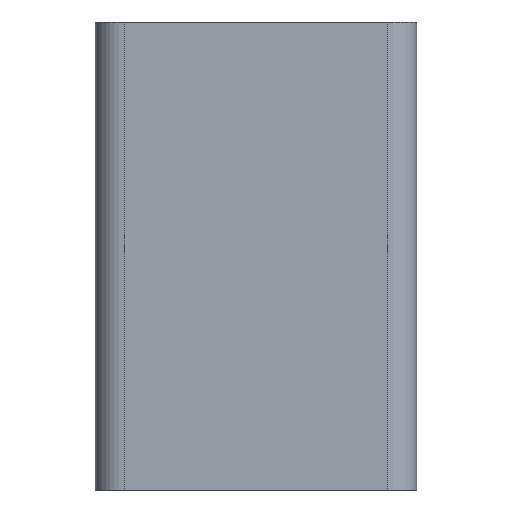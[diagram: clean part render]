
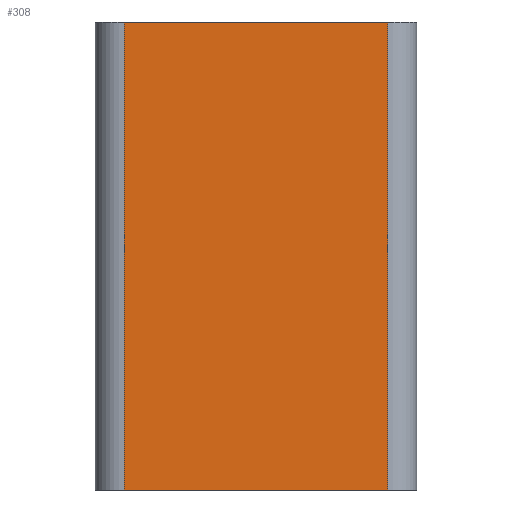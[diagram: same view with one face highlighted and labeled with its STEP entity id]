
A CAD part, left-side view. The second image highlights one B-rep face of the part: STEP entity #308.
In plain terms, the highlighted planar face has unit normal (-1, 0, 0).
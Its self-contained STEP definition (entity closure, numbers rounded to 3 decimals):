
#15 = CARTESIAN_POINT ( 'NONE',  ( -0.8, 0.5, -0.4 ) ) ;
#16 = VERTEX_POINT ( 'NONE', #15 ) ;
#26 = CARTESIAN_POINT ( 'NONE',  ( -0.8, 0.5, 0.4 ) ) ;
#27 = VERTEX_POINT ( 'NONE', #26 ) ;
#28 = CARTESIAN_POINT ( 'NONE',  ( -0.8, 0.5, -0.4 ) ) ;
#29 = DIRECTION ( 'NONE',  ( 0., 0., -1. ) ) ;
#30 = VECTOR ( 'NONE', #29, 1000. ) ;
#31 = LINE ( 'NONE', #28, #30 ) ;
#32 = EDGE_CURVE ( 'NONE', #27, #16, #31, .T. ) ;
#278 = CARTESIAN_POINT ( 'NONE',  ( -0.8, 0.05, -0.4 ) ) ;
#279 = VERTEX_POINT ( 'NONE', #278 ) ;
#280 = CARTESIAN_POINT ( 'NONE',  ( -0.8, 0.55, -0.4 ) ) ;
#281 = DIRECTION ( 'NONE',  ( 0., -1., 0. ) ) ;
#282 = VECTOR ( 'NONE', #281, 1000. ) ;
#283 = LINE ( 'NONE', #280, #282 ) ;
#284 = EDGE_CURVE ( 'NONE', #16, #279, #283, .T. ) ;
#285 = ORIENTED_EDGE ( 'NONE', *, *, #284, .T. ) ;
#286 = CARTESIAN_POINT ( 'NONE',  ( -0.8, 0.05, 0.4 ) ) ;
#287 = VERTEX_POINT ( 'NONE', #286 ) ;
#288 = CARTESIAN_POINT ( 'NONE',  ( -0.8, 0.05, -0.4 ) ) ;
#289 = DIRECTION ( 'NONE',  ( 0., 0., 1. ) ) ;
#290 = VECTOR ( 'NONE', #289, 1000. ) ;
#291 = LINE ( 'NONE', #288, #290 ) ;
#292 = EDGE_CURVE ( 'NONE', #279, #287, #291, .T. ) ;
#293 = ORIENTED_EDGE ( 'NONE', *, *, #292, .T. ) ;
#294 = CARTESIAN_POINT ( 'NONE',  ( -0.8, 0.55, 0.4 ) ) ;
#295 = DIRECTION ( 'NONE',  ( 0., -1., 0. ) ) ;
#296 = VECTOR ( 'NONE', #295, 1000. ) ;
#297 = LINE ( 'NONE', #294, #296 ) ;
#298 = EDGE_CURVE ( 'NONE', #27, #287, #297, .T. ) ;
#299 = ORIENTED_EDGE ( 'NONE', *, *, #298, .F. ) ;
#300 = ORIENTED_EDGE ( 'NONE', *, *, #32, .T. ) ;
#301 = EDGE_LOOP ( 'NONE', ( #285, #293, #299, #300 ) ) ;
#302 = FACE_OUTER_BOUND ( 'NONE', #301, .T. ) ;
#303 = CARTESIAN_POINT ( 'NONE',  ( -0.8, 0.55, -0.4 ) ) ;
#304 = DIRECTION ( 'NONE',  ( -1., 0., 0. ) ) ;
#305 = DIRECTION ( 'NONE',  ( 0., -1., 0. ) ) ;
#306 = AXIS2_PLACEMENT_3D ( 'NONE', #303, #304, #305 ) ;
#307 = PLANE ( 'NONE', #306 ) ;
#308 = ADVANCED_FACE ( 'NONE', ( #302 ), #307, .T. ) ;
